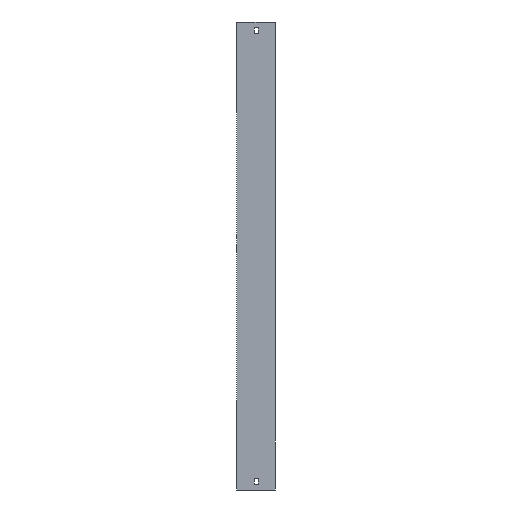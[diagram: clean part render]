
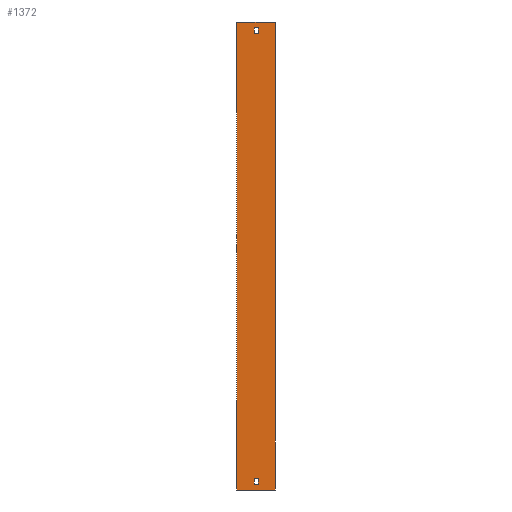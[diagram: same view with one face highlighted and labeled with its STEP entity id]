
A CAD part, left-side view. The second image highlights one B-rep face of the part: STEP entity #1372.
In plain terms, the highlighted planar face has unit normal (-1, 0, 0).
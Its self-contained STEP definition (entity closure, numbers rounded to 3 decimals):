
#5 = VECTOR ( 'NONE', #1786, 1000. ) ;
#10 = VERTEX_POINT ( 'NONE', #1871 ) ;
#19 = CARTESIAN_POINT ( 'NONE',  ( -604., 65.5, -754. ) ) ;
#43 = ORIENTED_EDGE ( 'NONE', *, *, #1019, .T. ) ;
#82 = VERTEX_POINT ( 'NONE', #674 ) ;
#87 = EDGE_CURVE ( 'NONE', #1747, #1324, #1274, .T. ) ;
#106 = VECTOR ( 'NONE', #1314, 1000. ) ;
#130 = CARTESIAN_POINT ( 'NONE',  ( -604., 35.5, -734. ) ) ;
#152 = LINE ( 'NONE', #945, #1673 ) ;
#179 = VERTEX_POINT ( 'NONE', #1021 ) ;
#188 = VERTEX_POINT ( 'NONE', #1631 ) ;
#201 = VECTOR ( 'NONE', #741, 1000. ) ;
#223 = EDGE_CURVE ( 'NONE', #610, #10, #895, .T. ) ;
#254 = DIRECTION ( 'NONE',  ( 0., 0., -1. ) ) ;
#277 = VERTEX_POINT ( 'NONE', #1700 ) ;
#296 = AXIS2_PLACEMENT_3D ( 'NONE', #830, #361, #673 ) ;
#322 = VECTOR ( 'NONE', #254, 1000. ) ;
#342 = ORIENTED_EDGE ( 'NONE', *, *, #918, .F. ) ;
#344 = VERTEX_POINT ( 'NONE', #357 ) ;
#357 = CARTESIAN_POINT ( 'NONE',  ( -604., 28.5, -734. ) ) ;
#361 = DIRECTION ( 'NONE',  ( 1., 0., 0. ) ) ;
#365 = ORIENTED_EDGE ( 'NONE', *, *, #223, .F. ) ;
#367 = VECTOR ( 'NONE', #1338, 1000. ) ;
#382 = FACE_BOUND ( 'NONE', #1104, .T. ) ;
#384 = EDGE_CURVE ( 'NONE', #1371, #1877, #1170, .T. ) ;
#465 = EDGE_LOOP ( 'NONE', ( #1029, #943, #1859, #1091 ) ) ;
#506 = LINE ( 'NONE', #1535, #1209 ) ;
#547 = DIRECTION ( 'NONE',  ( 0., 0., 1. ) ) ;
#591 = CARTESIAN_POINT ( 'NONE',  ( -604., 28.5, -744. ) ) ;
#610 = VERTEX_POINT ( 'NONE', #679 ) ;
#629 = LINE ( 'NONE', #798, #1458 ) ;
#673 = DIRECTION ( 'NONE',  ( 0., 0., -1. ) ) ;
#674 = CARTESIAN_POINT ( 'NONE',  ( -604., 65.5, -754. ) ) ;
#679 = CARTESIAN_POINT ( 'NONE',  ( -604., 35.5, -744. ) ) ;
#699 = FACE_BOUND ( 'NONE', #1135, .T. ) ;
#701 = CARTESIAN_POINT ( 'NONE',  ( -604., 35.5, 40. ) ) ;
#741 = DIRECTION ( 'NONE',  ( 0., -1., 0. ) ) ;
#774 = CARTESIAN_POINT ( 'NONE',  ( -604., 0., -754. ) ) ;
#798 = CARTESIAN_POINT ( 'NONE',  ( -604., 65.5, -754. ) ) ;
#805 = FACE_OUTER_BOUND ( 'NONE', #465, .T. ) ;
#808 = VECTOR ( 'NONE', #889, 1000. ) ;
#830 = CARTESIAN_POINT ( 'NONE',  ( -604., 65.5, -754. ) ) ;
#840 = CARTESIAN_POINT ( 'NONE',  ( -604., 35.5, 30. ) ) ;
#867 = EDGE_CURVE ( 'NONE', #179, #188, #1094, .T. ) ;
#889 = DIRECTION ( 'NONE',  ( 0., 0., 1. ) ) ;
#895 = LINE ( 'NONE', #1619, #201 ) ;
#918 = EDGE_CURVE ( 'NONE', #10, #344, #1171, .T. ) ;
#937 = EDGE_CURVE ( 'NONE', #1041, #1324, #1770, .T. ) ;
#938 = ORIENTED_EDGE ( 'NONE', *, *, #384, .T. ) ;
#943 = ORIENTED_EDGE ( 'NONE', *, *, #937, .F. ) ;
#945 = CARTESIAN_POINT ( 'NONE',  ( -604., 35.5, -744. ) ) ;
#956 = CARTESIAN_POINT ( 'NONE',  ( -604., 65.5, 50. ) ) ;
#1019 = EDGE_CURVE ( 'NONE', #1877, #179, #506, .T. ) ;
#1021 = CARTESIAN_POINT ( 'NONE',  ( -604., 28.5, 40. ) ) ;
#1029 = ORIENTED_EDGE ( 'NONE', *, *, #87, .T. ) ;
#1039 = ORIENTED_EDGE ( 'NONE', *, *, #867, .T. ) ;
#1041 = VERTEX_POINT ( 'NONE', #956 ) ;
#1056 = EDGE_CURVE ( 'NONE', #82, #1041, #1833, .T. ) ;
#1091 = ORIENTED_EDGE ( 'NONE', *, *, #1740, .T. ) ;
#1094 = LINE ( 'NONE', #1826, #322 ) ;
#1104 = EDGE_LOOP ( 'NONE', ( #365, #1242, #1837, #342 ) ) ;
#1135 = EDGE_LOOP ( 'NONE', ( #938, #43, #1039, #1622 ) ) ;
#1137 = EDGE_CURVE ( 'NONE', #188, #1371, #1730, .T. ) ;
#1170 = LINE ( 'NONE', #1428, #808 ) ;
#1171 = LINE ( 'NONE', #591, #367 ) ;
#1209 = VECTOR ( 'NONE', #1375, 1000. ) ;
#1242 = ORIENTED_EDGE ( 'NONE', *, *, #1841, .F. ) ;
#1274 = LINE ( 'NONE', #1561, #1446 ) ;
#1284 = DIRECTION ( 'NONE',  ( 0., 1., 0. ) ) ;
#1314 = DIRECTION ( 'NONE',  ( 0., 1., 0. ) ) ;
#1324 = VERTEX_POINT ( 'NONE', #1490 ) ;
#1338 = DIRECTION ( 'NONE',  ( 0., 0., 1. ) ) ;
#1344 = CARTESIAN_POINT ( 'NONE',  ( -604., 65.5, 50. ) ) ;
#1371 = VERTEX_POINT ( 'NONE', #840 ) ;
#1372 = ADVANCED_FACE ( 'NONE', ( #805, #699, #382 ), #1828, .F. ) ;
#1375 = DIRECTION ( 'NONE',  ( 0., -1., 0. ) ) ;
#1388 = VECTOR ( 'NONE', #1284, 1000. ) ;
#1428 = CARTESIAN_POINT ( 'NONE',  ( -604., 35.5, 40. ) ) ;
#1446 = VECTOR ( 'NONE', #547, 1000. ) ;
#1458 = VECTOR ( 'NONE', #1657, 1000. ) ;
#1490 = CARTESIAN_POINT ( 'NONE',  ( -604., 0., 50. ) ) ;
#1505 = EDGE_CURVE ( 'NONE', #344, #277, #1625, .T. ) ;
#1534 = DIRECTION ( 'NONE',  ( 0., 0., -1. ) ) ;
#1535 = CARTESIAN_POINT ( 'NONE',  ( -604., 35.5, 40. ) ) ;
#1561 = CARTESIAN_POINT ( 'NONE',  ( -604., 0., -754. ) ) ;
#1619 = CARTESIAN_POINT ( 'NONE',  ( -604., 35.5, -744. ) ) ;
#1622 = ORIENTED_EDGE ( 'NONE', *, *, #1137, .T. ) ;
#1625 = LINE ( 'NONE', #130, #106 ) ;
#1631 = CARTESIAN_POINT ( 'NONE',  ( -604., 28.5, 30. ) ) ;
#1653 = DIRECTION ( 'NONE',  ( 0., 0., 1. ) ) ;
#1657 = DIRECTION ( 'NONE',  ( 0., -1., 0. ) ) ;
#1673 = VECTOR ( 'NONE', #1534, 1000. ) ;
#1700 = CARTESIAN_POINT ( 'NONE',  ( -604., 35.5, -734. ) ) ;
#1730 = LINE ( 'NONE', #1866, #1388 ) ;
#1740 = EDGE_CURVE ( 'NONE', #82, #1747, #629, .T. ) ;
#1747 = VERTEX_POINT ( 'NONE', #774 ) ;
#1770 = LINE ( 'NONE', #1344, #5 ) ;
#1786 = DIRECTION ( 'NONE',  ( 0., -1., 0. ) ) ;
#1826 = CARTESIAN_POINT ( 'NONE',  ( -604., 28.5, 40. ) ) ;
#1828 = PLANE ( 'NONE',  #296 ) ;
#1833 = LINE ( 'NONE', #19, #1923 ) ;
#1837 = ORIENTED_EDGE ( 'NONE', *, *, #1505, .F. ) ;
#1841 = EDGE_CURVE ( 'NONE', #277, #610, #152, .T. ) ;
#1859 = ORIENTED_EDGE ( 'NONE', *, *, #1056, .F. ) ;
#1866 = CARTESIAN_POINT ( 'NONE',  ( -604., 35.5, 30. ) ) ;
#1871 = CARTESIAN_POINT ( 'NONE',  ( -604., 28.5, -744. ) ) ;
#1877 = VERTEX_POINT ( 'NONE', #701 ) ;
#1923 = VECTOR ( 'NONE', #1653, 1000. ) ;
